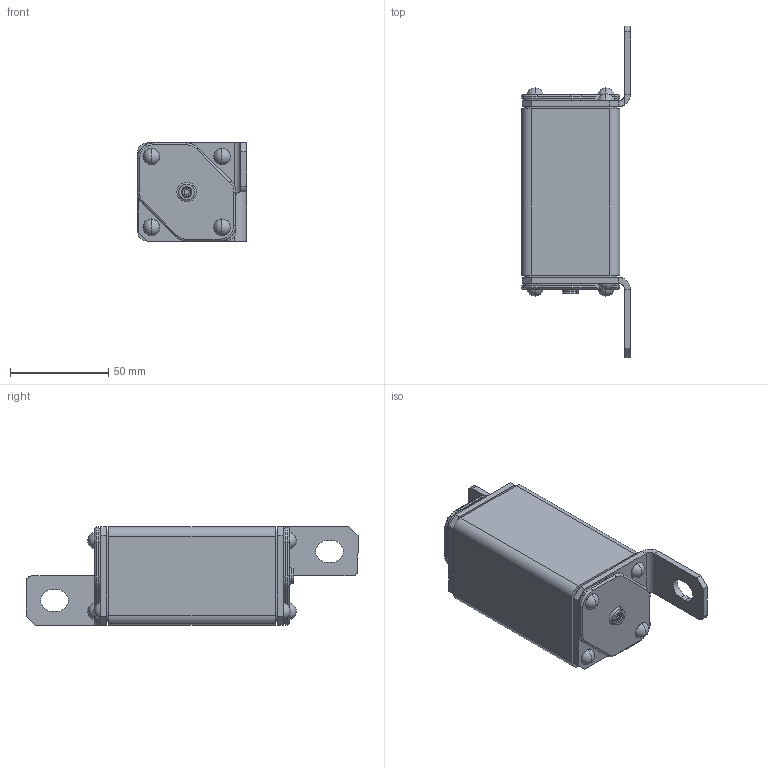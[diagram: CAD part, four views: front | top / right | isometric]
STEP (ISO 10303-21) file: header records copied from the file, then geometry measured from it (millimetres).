
FILE_DESCRIPTION (( 'STEP AP214' ), '1' );
FILE_NAME ('砎槼隰譇膻蠈錪 珫57-34670-XXXA-XXXX-忡曖.STEP', '2023-05-11T11:46:10', ( '' ), ( '' ), 'SwSTEP 2.0', 'SolidWorks 2018', '' );
FILE_SCHEMA (( 'AUTOMOTIVE_DESIGN' ));
Length unit declared in the file: millimetre
Products named in the file (1): 砎槼隰譇膻蠈錪 珫57-34670-XXXA-XXXX-忡曖
Bounding box: 55.5 x 169 x 50.04 mm (x, y, z)
Volume: 242378.3 mm3; surface area: 36813 mm2
Topology: 1 solids, 15 shells, 381 faces, 888 edges, 560 vertices
Faces by surface type: cylinder 150, plane 143, torus 40, cone 32, sphere 16
Entity records: 15267 total; most frequent: DIRECTION 2108, CARTESIAN_POINT 1914, ORIENTED_EDGE 1776, EDGE_CURVE 888, AXIS2_PLACEMENT_3D 842, VERTEX_POINT 560, CIRCLE 460, EDGE_LOOP 424
